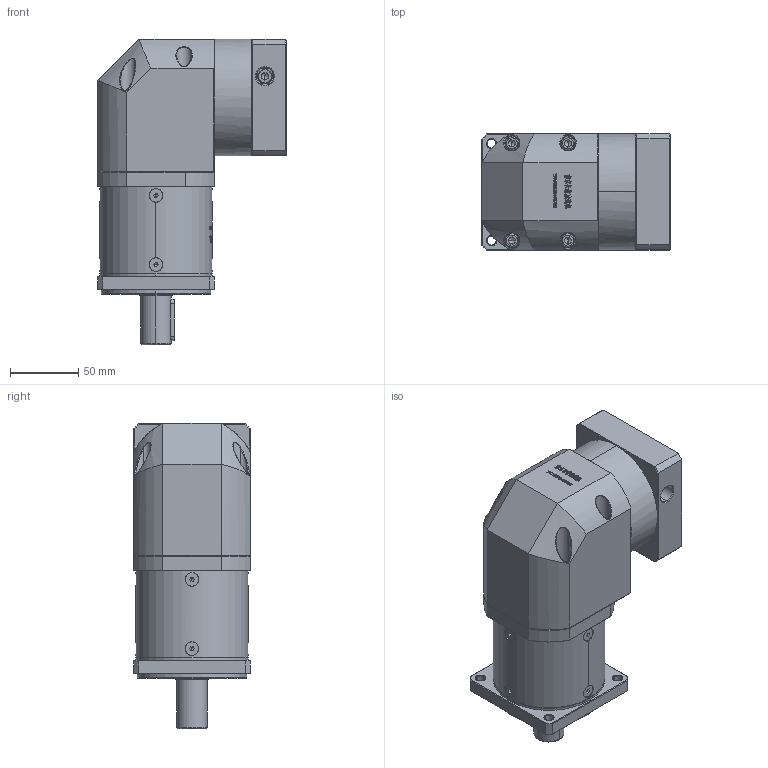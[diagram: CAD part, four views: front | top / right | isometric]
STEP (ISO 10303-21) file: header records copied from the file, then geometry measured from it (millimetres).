
FILE_DESCRIPTION (( 'STEP AP214' ), '1' );
FILE_NAME ('ZF80-D22-L2-16-80-100-M6.step', '2022-05-08T12:00:43', ( '' ), ( 'Microsoft' ), 'SwSTEP 2.0', 'SolidWorks 2016', '' );
FILE_SCHEMA (( 'AUTOMOTIVE_DESIGN' ));
Length unit declared in the file: millimetre
Products named in the file (1): ZF80-D22-L2-16-80-100-M6
Bounding box: 137.6 x 85 x 223 mm (x, y, z)
Volume: 1359465.5 mm3; surface area: 140843 mm2
Topology: 13 solids, 13 shells, 3059 faces, 8040 edges, 5131 vertices
Faces by surface type: plane 1617, bspline 624, cylinder 441, cone 363, torus 14
Entity records: 165055 total; most frequent: CARTESIAN_POINT 61647, ORIENTED_EDGE 15988, DIRECTION 12034, EDGE_CURVE 7994, VERTEX_POINT 5131, LINE 4966, VECTOR 4966, AXIS2_PLACEMENT_3D 3534
